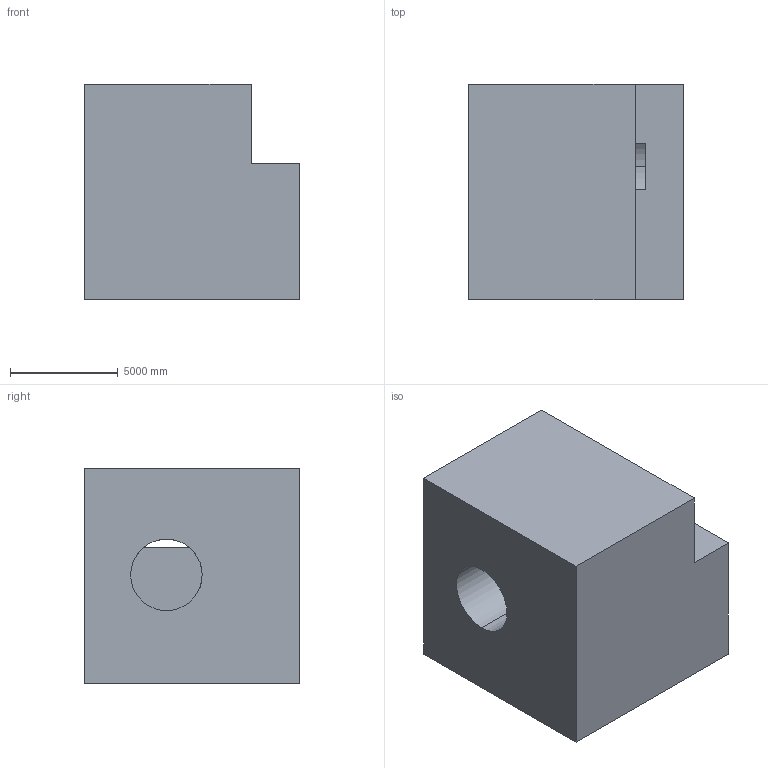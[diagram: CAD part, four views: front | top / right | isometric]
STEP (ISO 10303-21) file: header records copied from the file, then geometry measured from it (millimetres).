
FILE_DESCRIPTION (( 'STEP AP203' ), '1' );
FILE_NAME ('1162.STEP', '2022-08-18T13:00:19', ( 'user' ), ( '' ), 'SwSTEP 2.0', 'SolidWorks 2021', '' );
FILE_SCHEMA (( 'CONFIG_CONTROL_DESIGN' ));
Length unit declared in the file: centimetre
Products named in the file (1): 1162
Bounding box: 10000 x 10000 x 10000 mm (x, y, z)
Volume: 846205711357.7 mm3; surface area: 665995909.2 mm2
Topology: 1 solids, 1 shells, 11 faces, 30 edges, 20 vertices
Faces by surface type: plane 9, cylinder 2
Entity records: 431 total; most frequent: CARTESIAN_POINT 62, ORIENTED_EDGE 60, DIRECTION 60, EDGE_CURVE 30, VECTOR 24, LINE 24, VERTEX_POINT 20, AXIS2_PLACEMENT_3D 18
